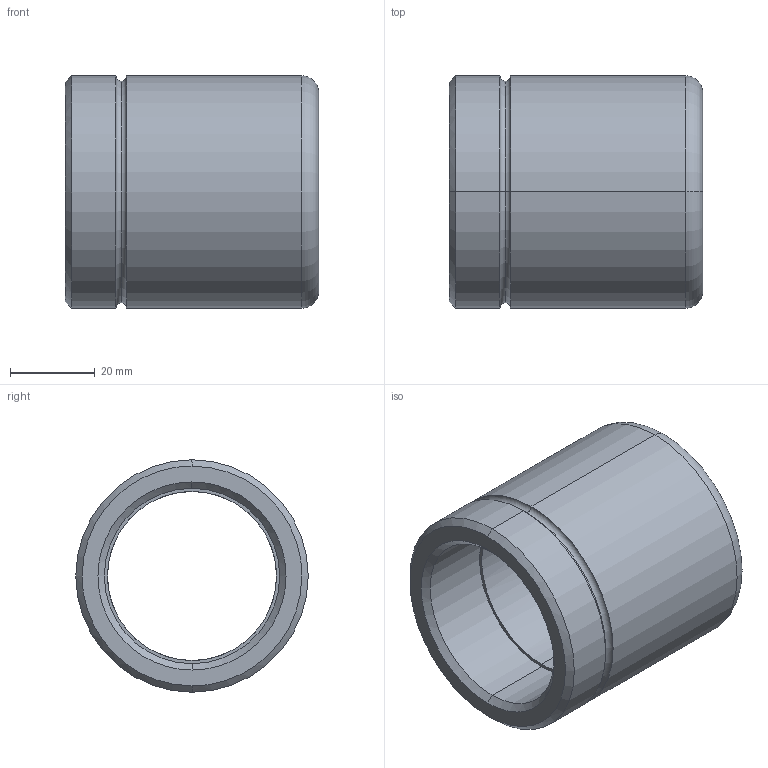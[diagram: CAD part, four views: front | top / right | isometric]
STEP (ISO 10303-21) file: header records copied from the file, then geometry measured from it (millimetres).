
FILE_DESCRIPTION(('CATIA V5 STEP Exchange'),'2;1');
FILE_NAME('C:\Users\Utente\Desktop\IO LAVORO\3D X SITO CF\X SITO\3D files 347\347-40 x 60.stp','2021-01-01T09:45:25+00:00',('none'),('none'),'CATIA Version 5 Release 20 GA (IN-10)','CATIA V5 STEP AP203','none');
FILE_SCHEMA(('CONFIG_CONTROL_DESIGN'));
Length unit declared in the file: millimetre
Products named in the file (1): 347-40 x 60
Bounding box: 60 x 55 x 55 mm (x, y, z)
Volume: 63606.8 mm3; surface area: 20077 mm2
Topology: 1 solids, 1 shells, 29 faces, 86 edges, 60 vertices
Faces by surface type: torus 12, cylinder 10, cone 4, plane 3
Entity records: 1154 total; most frequent: CARTESIAN_POINT 344, ORIENTED_EDGE 172, DIRECTION 132, AXIS2_PLACEMENT_3D 90, EDGE_CURVE 86, CIRCLE 60, VERTEX_POINT 60, EDGE_LOOP 32
